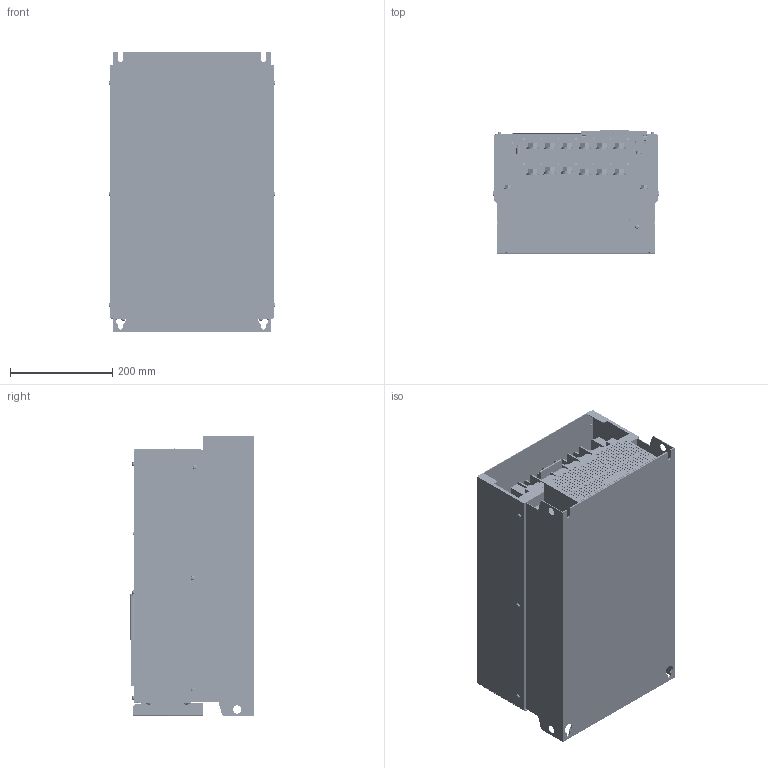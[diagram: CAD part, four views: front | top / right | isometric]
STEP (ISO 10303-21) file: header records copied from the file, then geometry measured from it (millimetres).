
FILE_DESCRIPTION((''),'2;1');
FILE_NAME('VFAS3J_J8_ASM','2019-09-19T09:56:46',('SESA57331'),('Schneider-Electric'),'CREO PARAMETRIC BY PTC INC, 2018300','CREO PARAMETRIC BY PTC INC, 2018300','');
FILE_SCHEMA(('CONFIG_CONTROL_DESIGN'));
Products named in the file (19): VFAS3J_DRIVE_J8; VFAS3J_CTR_TERM; VFAS3J_CTR_TERM_SHORT_BAR; VFAS3J_CTR_TERM_SCREW_M3-1; VFAS3J_CTR_TERM_SCREW_M3-2; VFAS3J_CTR_TERM_FL_COVER; VFAS3J_CTR_TERM_ASM; VFAS3J_DISPLAY; VFAS3J_DISPLAY_COVER; TERM_SUNT-BAR_M12; TERM_SCREW_M12X25; TERM_SCREW_M8X20; SCREW_M5X12; SCREW_M4X16; VFAS3J_TOP_COVER_J8; VFAS3J_FRONT_COVER_J8; VFAS3J_CTR_CAP; VFAS3J_FRONT_COVER_J8_ASM; VFAS3J_J8_ASM
Assembly tree (55 placements, depth 3):
  VFAS3J_J8_ASM
    VFAS3J_DRIVE_J8
    VFAS3J_CTR_TERM_ASM
      VFAS3J_CTR_TERM
      VFAS3J_CTR_TERM_SHORT_BAR  x2
      VFAS3J_CTR_TERM_SCREW_M3-1  x23
      VFAS3J_CTR_TERM_SCREW_M3-2  x3
      VFAS3J_CTR_TERM_FL_COVER
    VFAS3J_DISPLAY
    VFAS3J_DISPLAY_COVER
    TERM_SUNT-BAR_M12
    TERM_SCREW_M12X25  x12
    TERM_SCREW_M8X20  x2
    SCREW_M5X12
    SCREW_M4X16
    VFAS3J_TOP_COVER_J8
    VFAS3J_FRONT_COVER_J8_ASM
      VFAS3J_FRONT_COVER_J8
      VFAS3J_CTR_CAP
Bounding box: 326 x 241.08 x 550 mm (x, y, z)
Volume: 31264682.6 mm3; surface area: 1741969.6 mm2
Topology: 53 solids, 55 shells, 5214 faces, 13318 edges, 8729 vertices
Faces by surface type: plane 3629, cylinder 1423, torus 99, sphere 26, bspline 23, cone 14
Entity records: 142944 total; most frequent: CARTESIAN_POINT 25662, DIRECTION 24149, ORIENTED_EDGE 24104, EDGE_CURVE 12052, VECTOR 9229, LINE 9229, VERTEX_POINT 7923, AXIS2_PLACEMENT_3D 7460
